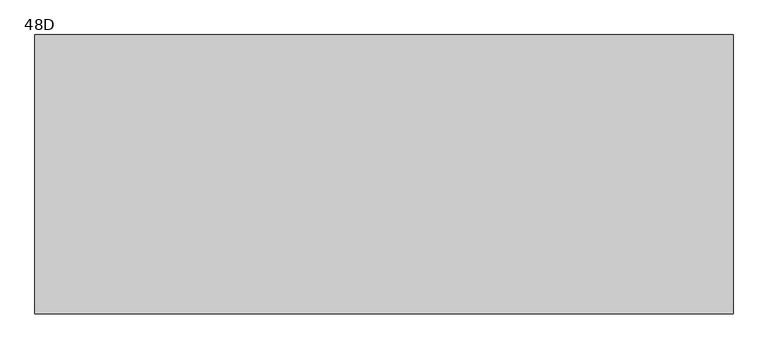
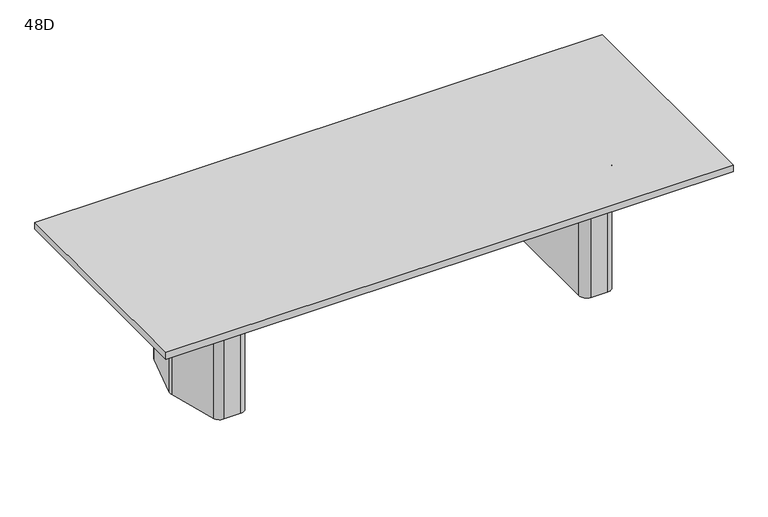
"""IFC4 building model written with IfcOpenShell, lengths in millimetres: furniture geometry, Coalesse_AM_Table_Conference_ETable2_Rectangular_10ft_TwoBase : 48D."""

import ifcopenshell
import ifcopenshell.guid

model = None  # the IFC model being written
_history = None  # IfcOwnerHistory: only IFC2X3 demands one
_inside = {}  # id of a spatial element -> (the spatial element, [elements in it])
_under = {}  # id of a project, library or spatial element -> (it, [spatial elements below it])
_declared = {}  # id of a project -> (the project, [libraries it declares])
_typed = {}  # id of a type object -> (the type object, [elements of that type])
_made_of = {}  # id of a material, layer set ... -> (it, [elements and type objects made of it])


def new_model(schema):
    """Start an empty IFC model of exactly this schema.

    Asked for "IFC4X3", IfcOpenShell would pick the latest addendum, in which some entities
    have other attributes; the version numbers below select the first issue.
    IFC2X3 requires an IfcOwnerHistory on every rooted entity: one is made here for all.
    """
    global model, _history
    if schema == "IFC4X3":
        model = ifcopenshell.file(schema_version=(4, 3, 0, 0))
    else:
        model = ifcopenshell.file(schema=schema)
    _inside.clear()
    _under.clear()
    _declared.clear()
    _typed.clear()
    _made_of.clear()
    _history = None
    if model.schema == "IFC2X3":
        org = make("IfcOrganization", Name="unknown")
        user = make(
            "IfcPersonAndOrganization",
            ThePerson=make("IfcPerson", FamilyName="unknown"),
            TheOrganization=org,
        )
        app = make(
            "IfcApplication",
            ApplicationDeveloper=org,
            Version="unknown",
            ApplicationFullName="unknown",
            ApplicationIdentifier="unknown",
        )
        _history = make(
            "IfcOwnerHistory",
            OwningUser=user,
            OwningApplication=app,
            ChangeAction="ADDED",
            CreationDate=0,
        )
    return model


def make(cls, **values):
    """One entity of the class cls with the attributes given. An attribute that is None is left unset."""
    return model.create_entity(
        cls, **{name: value for name, value in values.items() if value is not None}
    )


def rooted(cls, **values):
    """An entity with a GlobalId (a new one), such as an element, a storey or a relation."""
    return make(cls, GlobalId=ifcopenshell.guid.new(), OwnerHistory=_history, **values)


def si_unit(unit_type, name, prefix=None):
    """IfcSIUnit, for example si_unit("LENGTHUNIT", "METRE", prefix="MILLI")."""
    return make("IfcSIUnit", UnitType=unit_type, Prefix=prefix, Name=name)


def assignment(units):
    """IfcUnitAssignment: the units of a project."""
    return None if units is None else make("IfcUnitAssignment", Units=units)


def point(xyz):
    """IfcCartesianPoint."""
    return None if xyz is None else make("IfcCartesianPoint", Coordinates=xyz)


def direction(xyz):
    """IfcDirection."""
    return None if xyz is None else make("IfcDirection", DirectionRatios=xyz)


def frame(location, z_axis=None, x_axis=None):
    """IfcAxis2Placement3D, a coordinate frame: its origin and axes. An axis left out is left unset."""
    return make(
        "IfcAxis2Placement3D",
        Location=point(location),
        Axis=direction(z_axis),
        RefDirection=direction(x_axis),
    )


def origin():
    """The frame at (0, 0, 0) with its axes left unset."""
    return frame((0.0, 0.0, 0.0))


def place(relative_to, where):
    """IfcLocalPlacement: puts the frame where relative to a parent placement (None: the world)."""
    return make(
        "IfcLocalPlacement", PlacementRelTo=relative_to, RelativePlacement=where
    )


def context(
    kind, dimensions, precision=None, world=None, true_north=None, identifier=None
):
    """IfcGeometricRepresentationContext, for example the 3D "Model" context."""
    return make(
        "IfcGeometricRepresentationContext",
        ContextIdentifier=identifier,
        ContextType=kind,
        CoordinateSpaceDimension=dimensions,
        Precision=precision,
        WorldCoordinateSystem=world,
        TrueNorth=true_north,
    )


def project(units=None, contexts=None):
    """IfcProject with its units and contexts."""
    return rooted(
        "IfcProject",
        Name="project",
        RepresentationContexts=contexts,
        UnitsInContext=assignment(units),
    )


def spatial(cls, under=None, at=None, **own):
    """A site, building, storey or space (cls), placed at a placement, below another one or the project."""
    s = rooted(cls, ObjectPlacement=at, **own)
    if under is not None:
        _under.setdefault(under.id(), (under, []))[1].append(s)
    return s


def polyline(points):
    """IfcPolyline through the points."""
    return make("IfcPolyline", Points=[point(p) for p in points])


def circle_curve(where, radius):
    """IfcCircle in the frame where."""
    return make("IfcCircle", Position=where, Radius=radius)


def outline(outer, holes=None, kind="AREA"):
    """IfcArbitraryClosedProfileDef: a profile drawn as a closed curve; with holes, ...WithVoids."""
    if holes is None:
        return make("IfcArbitraryClosedProfileDef", ProfileType=kind, OuterCurve=outer)
    return make(
        "IfcArbitraryProfileDefWithVoids",
        ProfileType=kind,
        OuterCurve=outer,
        InnerCurves=holes,
    )


def extrude(swept, where, along, depth):
    """IfcExtrudedAreaSolid: the profile swept, set in the frame where, extruded along a direction by depth."""
    return make(
        "IfcExtrudedAreaSolid",
        SweptArea=swept,
        Position=where,
        ExtrudedDirection=direction(along),
        Depth=depth,
    )


def shape(context_of_items, identifier, shape_type, items):
    """IfcShapeRepresentation: the items that make up one representation, for example the "Body"."""
    return make(
        "IfcShapeRepresentation",
        ContextOfItems=context_of_items,
        RepresentationIdentifier=identifier,
        RepresentationType=shape_type,
        Items=items,
    )


def source(mapping_origin, context_of_items, identifier, shape_type, items):
    """IfcRepresentationMap: a shape defined once, which mapped items show again and again."""
    return make(
        "IfcRepresentationMap",
        MappingOrigin=mapping_origin,
        MappedRepresentation=shape(context_of_items, identifier, shape_type, items),
    )


def transform(
    local_origin,
    x_axis=None,
    y_axis=None,
    z_axis=None,
    scale=None,
    scale2=None,
    scale3=None,
    uniform=True,
):
    """IfcCartesianTransformationOperator3D, or its non-uniform kind. x_axis, y_axis, z_axis: its Axis1, 2, 3."""
    if uniform:
        return make(
            "IfcCartesianTransformationOperator3D",
            Axis1=direction(x_axis),
            Axis2=direction(y_axis),
            LocalOrigin=point(local_origin),
            Scale=scale,
            Axis3=direction(z_axis),
        )
    return make(
        "IfcCartesianTransformationOperator3DnonUniform",
        Axis1=direction(x_axis),
        Axis2=direction(y_axis),
        LocalOrigin=point(local_origin),
        Scale=scale,
        Axis3=direction(z_axis),
        Scale2=scale2,
        Scale3=scale3,
    )


def mapped(mapping_source, mapping_target):
    """IfcMappedItem: shows the shape of a source again, moved by a transform."""
    return make(
        "IfcMappedItem", MappingSource=mapping_source, MappingTarget=mapping_target
    )


def made_of(thing, what):
    """Note that an element or type object is made of a material, layer set ...; save() writes the relation."""
    if what is not None:
        _made_of.setdefault(what.id(), (what, []))[1].append(thing)
    return thing


def element(
    cls,
    number,
    at=None,
    inside=None,
    cuts=None,
    type_object=None,
    material=None,
    context=None,
    identifier="Body",
    shape_type=None,
    held_by="IfcProductDefinitionShape",
    body=None,
    shapes=None,
    **own,
):
    """One element of the class cls, such as IfcWall. Its Tag is "e" and its number.

    at: its placement. inside: the storey or other place that contains it. cuts: it is an
    opening in that element (IfcRelVoidsElement). A single representation is given by context,
    identifier, shape_type and body (its items); several are given by shapes. held_by: the class
    of the entity that holds the representations. save() writes the other relations.
    """
    e = rooted(cls, Tag="e%d" % number, ObjectPlacement=at, **own)
    if body is not None:
        shapes = [shape(context, identifier, shape_type, body)]
    if shapes is not None:
        e.Representation = make(held_by, Representations=shapes)
    if inside is not None:
        _inside.setdefault(inside.id(), (inside, []))[1].append(e)
    if cuts is not None:
        rooted(
            "IfcRelVoidsElement", RelatingBuildingElement=cuts, RelatedOpeningElement=e
        )
    if type_object is not None:
        _typed.setdefault(type_object.id(), (type_object, []))[1].append(e)
    return made_of(e, material)


def aggregate(whole, parts):
    """IfcRelAggregates: a whole, such as a stair, and the parts it consists of."""
    return rooted("IfcRelAggregates", RelatingObject=whole, RelatedObjects=parts)


def save(model, path):
    """Write the relations noted so far, then the file.

    IfcRelAggregates (storeys below a building ...), IfcRelContainedInSpatialStructure (elements
    in a storey), IfcRelDefinesByType, IfcRelAssociatesMaterial and IfcRelDeclares: one each for
    every whole, place, type object, material and project.
    """
    for whole, parts in _under.values():
        aggregate(whole, parts)
    for where, things in _inside.values():
        rooted(
            "IfcRelContainedInSpatialStructure",
            RelatedElements=things,
            RelatingStructure=where,
        )
    for kind, things in _typed.values():
        rooted("IfcRelDefinesByType", RelatedObjects=things, RelatingType=kind)
    for what, things in _made_of.values():
        rooted("IfcRelAssociatesMaterial", RelatedObjects=things, RelatingMaterial=what)
    for by, libraries in _declared.values():
        rooted("IfcRelDeclares", RelatingContext=by, RelatedDefinitions=libraries)
    model.write(path)


def plane_surface(at):
    """IfcPlane: the flat surface through the origin of the frame at, square to its z axis."""
    return make("IfcPlane", Position=at)


def cylinder_surface(at, radius):
    """IfcCylindricalSurface: all points at the distance radius from the z axis of the frame at."""
    return make("IfcCylindricalSurface", Position=at, Radius=radius)


def revolved_surface(curve, axis_point, axis_direction):
    """IfcSurfaceOfRevolution: the curve turned about the line through axis_point along axis_direction."""
    return make(
        "IfcSurfaceOfRevolution",
        SweptCurve=make("IfcArbitraryOpenProfileDef", ProfileType="CURVE", Curve=curve),
        AxisPosition=make("IfcAxis1Placement", Location=point(axis_point), Axis=direction(axis_direction)),
    )


def advanced_brep(points, edges, surfaces, faces):
    """IfcAdvancedBrep: a solid bounded by faces that lie on surfaces and meet in shared edges.

    An edge is (start, end): straight between two places in points (the first is 0);
    or (start, end, curve); or (start, end, curve, False) where it runs against its curve.
    A face is (place in surfaces, loops), or (place, loops, False) where it looks against
    its surface's normal. A loop lists edges by number (the first is 1), with a minus sign
    where the edge is run from its end to its start. The first loop is the outer one.
    """
    corners = [point(p) for p in points]
    vertices = [make("IfcVertexPoint", VertexGeometry=c) for c in corners]
    made = []
    for start, end, *more in edges:
        made.append(
            make(
                "IfcEdgeCurve",
                EdgeStart=vertices[start],
                EdgeEnd=vertices[end],
                EdgeGeometry=more[0] if more else make("IfcPolyline", Points=[corners[start], corners[end]]),
                SameSense=more[1] if len(more) > 1 else True,
            )
        )
    hull = []
    for where, loops, *sense in faces:
        bounds = []
        for j, loop in enumerate(loops):
            ring = [make("IfcOrientedEdge", EdgeElement=made[abs(k) - 1], Orientation=k > 0) for k in loop]
            bounds.append(
                make(
                    "IfcFaceOuterBound" if j == 0 else "IfcFaceBound",
                    Bound=make("IfcEdgeLoop", EdgeList=ring),
                    Orientation=True,
                )
            )
        hull.append(make("IfcAdvancedFace", Bounds=bounds, FaceSurface=surfaces[where], SameSense=sense[0] if sense else True))
    return make("IfcAdvancedBrep", Outer=make("IfcClosedShell", CfsFaces=hull))


def furniture_48d_0ca156d2(model_context):
    return source(origin(), model_context, "Body", "SolidModel", [
        advanced_brep(
        [(1065.424548, 274.2093613, 698.5), (1025.5579246, 304.8, 698.5), (936.625, 304.8, 698.5), (895.35, 263.525, 698.5), (895.35, -263.525, 698.5), (936.625, -304.8, 698.5), (1025.5579246, -304.8, 698.5), (1065.424548, -274.2093613, 698.5), (1136.0503901, -10.6333708, 698.5), (1136.0503901, 10.6333708, 698.5), (933.45, -206.375, 698.5), (933.45, 206.375, 698.5), (958.85, 231.775, 698.5), (1017.8608422, 231.775, 698.5), (1042.395338, 212.9490792, 698.5), (1081.0875, 68.54974, 698.5), (1081.0875, -68.54974, 698.5), (1042.395338, -212.9490792, 698.5), (1017.8608422, -231.775, 698.5), (958.85, -231.775, 698.5), (1065.424548, 274.2093613, 3.175), (1136.0503901, 10.6333708, 3.175), (1136.0503901, -10.6333708, 3.175), (1065.424548, -274.2093613, 3.175), (1025.5579246, -304.8, 3.175), (936.625, -304.8, 3.175), (895.35, -263.525, 3.175), (895.35, 263.525, 3.175), (936.625, 304.8, 3.175), (1025.5579246, 304.8, 3.175), (1054.6625859, 216.2361187, 3.175), (1017.8608422, 244.475, 3.175), (958.85, 244.475, 3.175), (920.75, 206.375, 3.175), (920.75, -206.375, 3.175), (958.85, -244.475, 3.175), (1017.8608422, -244.475, 3.175), (1054.6625859, -216.2361187, 3.175), (1093.7875, -70.2217466, 3.175), (1093.7875, 70.2217466, 3.175), (958.85, -231.775, 3.175), (933.45, -206.375, 3.175), (1017.8608422, -231.775, 3.175), (1042.395338, -212.9490792, 3.175), (1081.0875, -68.54974, 3.175), (1081.0875, 68.54974, 3.175), (1042.395338, 212.9490792, 3.175), (1017.8608422, 231.775, 3.175), (958.85, 231.775, 3.175), (933.45, 206.375, 3.175), (1054.6625859, 216.2361187, 0.0), (1093.7875, 70.2217466, 0.0), (1093.7875, -70.2217466, 0.0), (1054.6625859, -216.2361187, 0.0), (1017.8608422, -244.475, 0.0), (958.85, -244.475, 0.0), (920.75, -206.375, 0.0), (920.75, 206.375, 0.0), (958.85, 244.475, 0.0), (1017.8608422, 244.475, 0.0)],
        [
            (0, 1, circle_curve(frame((1025.5579246, 263.5270004, 698.5), z_axis=(0.0, 0.0, 1.0), x_axis=(-1.0, 0.0, 0.0)), 41.2729996)),
            (1, 2),
            (2, 3, circle_curve(frame((936.625, 263.525, 698.5), z_axis=(0.0, 0.0, 1.0), x_axis=(-1.0, 0.0, 0.0)), 41.275)),
            (3, 4),
            (4, 5, circle_curve(frame((936.625, -263.525, 698.5), z_axis=(0.0, 0.0, 1.0), x_axis=(-1.0, 0.0, 0.0)), 41.275)),
            (5, 6),
            (6, 7, circle_curve(frame((1025.5579246, -263.5270004, 698.5), z_axis=(0.0, 0.0, 1.0), x_axis=(-1.0, 0.0, 0.0)), 41.2729996)),
            (7, 8),
            (8, 9, circle_curve(frame((1096.3665979, 0.0, 698.5), z_axis=(0.0, 0.0, 1.0), x_axis=(-1.0, 0.0, 0.0)), 41.0837187)),
            (9, 0),
            (10, 11),
            (11, 12, circle_curve(frame((958.85, 206.375, 698.5), z_axis=(0.0, 0.0, -1.0), x_axis=(-1.0, 0.0, 0.0)), 25.4)),
            (12, 13),
            (13, 14, circle_curve(frame((1017.8608422, 206.375, 698.5), z_axis=(0.0, 0.0, -1.0), x_axis=(-1.0, 0.0, 0.0)), 25.4)),
            (14, 15),
            (15, 16),
            (16, 17),
            (17, 18, circle_curve(frame((1017.8608422, -206.375, 698.5), z_axis=(0.0, 0.0, -1.0), x_axis=(-1.0, 0.0, 0.0)), 25.4)),
            (18, 19),
            (19, 10, circle_curve(frame((958.85, -206.375, 698.5), z_axis=(0.0, 0.0, -1.0), x_axis=(-1.0, 0.0, 0.0)), 25.4)),
            (20, 21),
            (21, 22, circle_curve(frame((1096.3665979, 0.0, 3.175), z_axis=(0.0, 0.0, -1.0), x_axis=(-1.0, 0.0, 0.0)), 41.0837187)),
            (22, 23),
            (23, 24, circle_curve(frame((1025.5579246, -263.5270004, 3.175), z_axis=(0.0, 0.0, -1.0), x_axis=(-1.0, 0.0, 0.0)), 41.2729996)),
            (24, 25),
            (25, 26, circle_curve(frame((936.625, -263.525, 3.175), z_axis=(0.0, 0.0, -1.0), x_axis=(-1.0, 0.0, 0.0)), 41.275)),
            (26, 27),
            (27, 28, circle_curve(frame((936.625, 263.525, 3.175), z_axis=(0.0, 0.0, -1.0), x_axis=(-1.0, 0.0, 0.0)), 41.275)),
            (28, 29),
            (29, 20, circle_curve(frame((1025.5579246, 263.5270004, 3.175), z_axis=(0.0, 0.0, -1.0), x_axis=(-1.0, 0.0, 0.0)), 41.2729996)),
            (30, 31, circle_curve(frame((1017.8608422, 206.375, 3.175), z_axis=(0.0, 0.0, 1.0), x_axis=(-1.0, 0.0, 0.0)), 38.1)),
            (31, 32),
            (32, 33, circle_curve(frame((958.85, 206.375, 3.175), z_axis=(0.0, 0.0, 1.0), x_axis=(-1.0, 0.0, 0.0)), 38.1)),
            (33, 34),
            (34, 35, circle_curve(frame((958.85, -206.375, 3.175), z_axis=(0.0, 0.0, 1.0), x_axis=(-1.0, 0.0, 0.0)), 38.1)),
            (35, 36),
            (36, 37, circle_curve(frame((1017.8608422, -206.375, 3.175), z_axis=(0.0, 0.0, 1.0), x_axis=(-1.0, 0.0, 0.0)), 38.1)),
            (37, 38),
            (38, 39),
            (39, 30),
            (9, 21),
            (20, 0),
            (8, 22),
            (7, 23),
            (6, 24),
            (5, 25),
            (4, 26),
            (3, 27),
            (2, 28),
            (1, 29),
            (19, 40),
            (40, 41, circle_curve(frame((958.85, -206.375, 3.175), z_axis=(0.0, 0.0, -1.0), x_axis=(-1.0, 0.0, 0.0)), 25.4)),
            (41, 10),
            (18, 42),
            (42, 40),
            (17, 43),
            (43, 42, circle_curve(frame((1017.8608422, -206.375, 3.175), z_axis=(0.0, 0.0, -1.0), x_axis=(-1.0, 0.0, 0.0)), 25.4)),
            (16, 44),
            (44, 43),
            (15, 45),
            (45, 44),
            (14, 46),
            (46, 45),
            (13, 47),
            (47, 46, circle_curve(frame((1017.8608422, 206.375, 3.175), z_axis=(0.0, 0.0, -1.0), x_axis=(-1.0, 0.0, 0.0)), 25.4)),
            (12, 48),
            (48, 47),
            (11, 49),
            (49, 48, circle_curve(frame((958.85, 206.375, 3.175), z_axis=(0.0, 0.0, -1.0), x_axis=(-1.0, 0.0, 0.0)), 25.4)),
            (41, 49),
            (50, 51),
            (51, 52),
            (52, 53),
            (53, 54, circle_curve(frame((1017.8608422, -206.375, 0.0), z_axis=(0.0, 0.0, -1.0), x_axis=(-1.0, 0.0, 0.0)), 38.1)),
            (54, 55),
            (55, 56, circle_curve(frame((958.85, -206.375, 0.0), z_axis=(0.0, 0.0, -1.0), x_axis=(-1.0, 0.0, 0.0)), 38.1)),
            (56, 57),
            (57, 58, circle_curve(frame((958.85, 206.375, 0.0), z_axis=(0.0, 0.0, -1.0), x_axis=(-1.0, 0.0, 0.0)), 38.1)),
            (58, 59),
            (59, 50, circle_curve(frame((1017.8608422, 206.375, 0.0), z_axis=(0.0, 0.0, -1.0), x_axis=(-1.0, 0.0, 0.0)), 38.1)),
            (50, 30),
            (39, 51),
            (38, 52),
            (37, 53),
            (36, 54),
            (35, 55),
            (34, 56),
            (33, 57),
            (32, 58),
            (31, 59),
        ],
        [
            plane_surface(frame((1136.0374275, 10.6817473, 698.5), z_axis=(0.0, 0.0, 1.0000000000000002), x_axis=(0.25882201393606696, -0.9659250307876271, 0.0))),
            plane_surface(frame((1136.0374275, 10.6817473, 3.175), z_axis=(0.0, 0.0, -1.0000000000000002), x_axis=(-0.25882201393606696, 0.9659250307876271, 0.0))),
            plane_surface(frame((1065.424548, 274.2093613, 698.5), z_axis=(0.9659250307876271, 0.25882201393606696, 0.0), x_axis=(0.0, 0.0, -1.0))),
            cylinder_surface(frame((1096.3665979, 0.0, 3.175), z_axis=(0.0, 0.0, 1.0), x_axis=(-1.0, 0.0, 0.0)), 41.0837187),
            plane_surface(frame((1136.0503901, -10.6333708, 698.5), z_axis=(0.9659250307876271, -0.2588220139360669, 0.0), x_axis=(0.0, 0.0, -1.0))),
            cylinder_surface(frame((1025.5579246, -263.5270004, 3.175), z_axis=(0.0, 0.0, 1.0), x_axis=(-1.0, 0.0, 0.0)), 41.2729996),
            plane_surface(frame((1025.5579246, -304.8, 698.5), z_axis=(0.0, -1.0, 0.0), x_axis=(0.0, 0.0, -1.0))),
            cylinder_surface(frame((936.625, -263.525, 3.175), z_axis=(0.0, 0.0, 1.0), x_axis=(-1.0, 0.0, 0.0)), 41.275),
            plane_surface(frame((895.35, -263.525, 698.5), z_axis=(-1.0, 0.0, 0.0), x_axis=(0.0, 0.0, -1.0))),
            cylinder_surface(frame((936.625, 263.525, 3.175), z_axis=(0.0, 0.0, 1.0), x_axis=(-1.0, 0.0, 0.0)), 41.275),
            plane_surface(frame((936.625, 304.8, 698.5), z_axis=(0.0, 1.0, 0.0), x_axis=(0.0, 0.0, -1.0))),
            cylinder_surface(frame((1025.5579246, 263.5270004, 3.175), z_axis=(0.0, 0.0, 1.0), x_axis=(-1.0, 0.0, 0.0)), 41.2729996),
            revolved_surface(polyline([(933.45, -206.375, 3.175), (933.45, -206.375, 698.5)]), (958.85, -206.375, 0.0), (0.0, 0.0, -1.0)),
            plane_surface(frame((958.85, -231.775, 698.5), z_axis=(0.0, 1.0, 0.0), x_axis=(0.0, 0.0, -1.0))),
            revolved_surface(polyline([(992.4608422, -206.375, 3.175), (992.4608422, -206.375, 698.5)]), (1017.8608422, -206.375, 0.0), (0.0, 0.0, -1.0)),
            plane_surface(frame((1042.395338, -212.9490792, 698.5), z_axis=(-0.9659250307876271, 0.2588220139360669, 0.0), x_axis=(0.0, 0.0, -1.0))),
            plane_surface(frame((1081.0875, -68.54974, 698.5), z_axis=(-1.0, 0.0, 0.0), x_axis=(0.0, 0.0, -1.0))),
            plane_surface(frame((1081.0875, 68.54974, 698.5), z_axis=(-0.9659250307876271, -0.25882201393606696, 0.0), x_axis=(0.0, 0.0, -1.0))),
            revolved_surface(polyline([(992.4608422, 206.375, 3.175), (992.4608422, 206.375, 698.5)]), (1017.8608422, 206.375, 0.0), (0.0, 0.0, -1.0)),
            plane_surface(frame((1017.8608422, 231.775, 698.5), z_axis=(0.0, -1.0, 0.0), x_axis=(0.0, 0.0, -1.0))),
            revolved_surface(polyline([(933.45, 206.375, 3.175), (933.45, 206.375, 698.5)]), (958.85, 206.375, 0.0), (0.0, 0.0, -1.0)),
            plane_surface(frame((933.45, 206.375, 698.5), z_axis=(1.0, 0.0, 0.0), x_axis=(0.0, 0.0, -1.0))),
            plane_surface(frame((1093.3547479, 71.8367796, 3.175), z_axis=(0.0, 0.0, 1.0), x_axis=(0.25882201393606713, -0.965925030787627, 0.0))),
            plane_surface(frame((1093.3547479, 71.8367796, 0.0), z_axis=(0.0, 0.0, -1.0), x_axis=(-0.25882201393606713, 0.965925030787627, 0.0))),
            plane_surface(frame((1054.6625859, 216.2361187, 3.175), z_axis=(0.965925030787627, 0.25882201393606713, 0.0), x_axis=(0.0, 0.0, -1.0))),
            plane_surface(frame((1093.7875, 70.2217466, 3.175), z_axis=(1.0, 0.0, 0.0), x_axis=(0.0, 0.0, -1.0))),
            plane_surface(frame((1093.7875, -70.2217466, 3.175), z_axis=(0.9659250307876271, -0.2588220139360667, 0.0), x_axis=(0.0, 0.0, -1.0))),
            cylinder_surface(frame((1017.8608422, -206.375, 0.0), z_axis=(0.0, 0.0, 1.0), x_axis=(-1.0, 0.0, 0.0)), 38.1),
            plane_surface(frame((1017.8608422, -244.475, 3.175), z_axis=(0.0, -1.0, 0.0), x_axis=(0.0, 0.0, -1.0))),
            cylinder_surface(frame((958.85, -206.375, 0.0), z_axis=(0.0, 0.0, 1.0), x_axis=(-1.0, 0.0, 0.0)), 38.1),
            plane_surface(frame((920.75, -206.375, 3.175), z_axis=(-1.0, 0.0, 0.0), x_axis=(0.0, 0.0, -1.0))),
            cylinder_surface(frame((958.85, 206.375, 0.0), z_axis=(0.0, 0.0, 1.0), x_axis=(-1.0, 0.0, 0.0)), 38.1),
            plane_surface(frame((958.85, 244.475, 3.175), z_axis=(0.0, 1.0, 0.0), x_axis=(0.0, 0.0, -1.0))),
            cylinder_surface(frame((1017.8608422, 206.375, 0.0), z_axis=(0.0, 0.0, 1.0), x_axis=(-1.0, 0.0, 0.0)), 38.1),
        ],
        [
            (0, [[1, 2, 3, 4, 5, 6, 7, 8, 9, 10], [11, 12, 13, 14, 15, 16, 17, 18, 19, 20]]),
            (1, [[21, 22, 23, 24, 25, 26, 27, 28, 29, 30], [31, 32, 33, 34, 35, 36, 37, 38, 39, 40]]),
            (2, [[41, -21, 42, -10]]),
            (3, [[43, -22, -41, -9]]),
            (4, [[44, -23, -43, -8]]),
            (5, [[45, -24, -44, -7]]),
            (6, [[46, -25, -45, -6]]),
            (7, [[47, -26, -46, -5]]),
            (8, [[48, -27, -47, -4]]),
            (9, [[49, -28, -48, -3]]),
            (10, [[50, -29, -49, -2]]),
            (11, [[-42, -30, -50, -1]]),
            (12, [[51, 52, 53, -20]]),
            (13, [[54, 55, -51, -19]]),
            (14, [[56, 57, -54, -18]]),
            (15, [[58, 59, -56, -17]]),
            (16, [[60, 61, -58, -16]]),
            (17, [[62, 63, -60, -15]]),
            (18, [[64, 65, -62, -14]]),
            (19, [[66, 67, -64, -13]]),
            (20, [[68, 69, -66, -12]]),
            (21, [[-53, 70, -68, -11]]),
            (22, [[-55, -57, -59, -61, -63, -65, -67, -69, -70, -52]]),
            (23, [[71, 72, 73, 74, 75, 76, 77, 78, 79, 80]]),
            (24, [[81, -40, 82, -71]]),
            (25, [[-82, -39, 83, -72]]),
            (26, [[-83, -38, 84, -73]]),
            (27, [[-84, -37, 85, -74]]),
            (28, [[-85, -36, 86, -75]]),
            (29, [[-86, -35, 87, -76]]),
            (30, [[-87, -34, 88, -77]]),
            (31, [[-88, -33, 89, -78]]),
            (32, [[-89, -32, 90, -79]]),
            (33, [[-90, -31, -81, -80]]),
        ],
    ),
        advanced_brep(
        [(-1076.537048, 274.2093613, 698.5), (-1147.1628901, 10.6333708, 698.5), (-1147.1628901, -10.6333708, 698.5), (-1076.537048, -274.2093613, 698.5), (-1036.6704246, -304.8, 698.5), (-947.7375, -304.8, 698.5), (-906.4625, -263.525, 698.5), (-906.4625, 263.525, 698.5), (-947.7375, 304.8, 698.5), (-1036.6704246, 304.8, 698.5), (-944.5625, -206.375, 698.5), (-969.9625, -231.775, 698.5), (-1028.9733422, -231.775, 698.5), (-1053.507838, -212.9490792, 698.5), (-1092.2, -68.54974, 698.5), (-1092.2, 68.54974, 698.5), (-1053.507838, 212.9490792, 698.5), (-1028.9733422, 231.775, 698.5), (-969.9625, 231.775, 698.5), (-944.5625, 206.375, 698.5), (-1076.537048, 274.2093613, 3.175), (-1036.6704246, 304.8, 3.175), (-947.7375, 304.8, 3.175), (-906.4625, 263.525, 3.175), (-906.4625, -263.525, 3.175), (-947.7375, -304.8, 3.175), (-1036.6704246, -304.8, 3.175), (-1076.537048, -274.2093613, 3.175), (-1147.1628901, -10.6333708, 3.175), (-1147.1628901, 10.6333708, 3.175), (-1065.7750859, 216.2361187, 3.175), (-1104.9, 70.2217466, 3.175), (-1104.9, -70.2217466, 3.175), (-1065.7750859, -216.2361187, 3.175), (-1028.9733422, -244.475, 3.175), (-969.9625, -244.475, 3.175), (-931.8625, -206.375, 3.175), (-931.8625, 206.375, 3.175), (-969.9625, 244.475, 3.175), (-1028.9733422, 244.475, 3.175), (-944.5625, -206.375, 3.175), (-969.9625, -231.775, 3.175), (-1028.9733422, -231.775, 3.175), (-1053.507838, -212.9490792, 3.175), (-1092.2, -68.54974, 3.175), (-1092.2, 68.54974, 3.175), (-1053.507838, 212.9490792, 3.175), (-1028.9733422, 231.775, 3.175), (-969.9625, 231.775, 3.175), (-944.5625, 206.375, 3.175), (-1065.7750859, 216.2361187, 0.0), (-1028.9733422, 244.475, 0.0), (-969.9625, 244.475, 0.0), (-931.8625, 206.375, 0.0), (-931.8625, -206.375, 0.0), (-969.9625, -244.475, 0.0), (-1028.9733422, -244.475, 0.0), (-1065.7750859, -216.2361187, 0.0), (-1104.9, -70.2217466, 0.0), (-1104.9, 70.2217466, 0.0)],
        [
            (0, 1),
            (1, 2, circle_curve(frame((-1107.4790979, 0.0, 698.5), z_axis=(0.0, 0.0, 1.0), x_axis=(1.0, 0.0, 0.0)), 41.0837187)),
            (2, 3),
            (3, 4, circle_curve(frame((-1036.6704246, -263.5270004, 698.5), z_axis=(0.0, 0.0, 1.0), x_axis=(1.0, 0.0, 0.0)), 41.2729996)),
            (4, 5),
            (5, 6, circle_curve(frame((-947.7375, -263.525, 698.5), z_axis=(0.0, 0.0, 1.0), x_axis=(1.0, 0.0, 0.0)), 41.275)),
            (6, 7),
            (7, 8, circle_curve(frame((-947.7375, 263.525, 698.5), z_axis=(0.0, 0.0, 1.0), x_axis=(1.0, 0.0, 0.0)), 41.275)),
            (8, 9),
            (9, 0, circle_curve(frame((-1036.6704246, 263.5270004, 698.5), z_axis=(0.0, 0.0, 1.0), x_axis=(1.0, 0.0, 0.0)), 41.2729996)),
            (10, 11, circle_curve(frame((-969.9625, -206.375, 698.5), z_axis=(0.0, 0.0, -1.0), x_axis=(1.0, 0.0, 0.0)), 25.4)),
            (11, 12),
            (12, 13, circle_curve(frame((-1028.9733422, -206.375, 698.5), z_axis=(0.0, 0.0, -1.0), x_axis=(1.0, 0.0, 0.0)), 25.4)),
            (13, 14),
            (14, 15),
            (15, 16),
            (16, 17, circle_curve(frame((-1028.9733422, 206.375, 698.5), z_axis=(0.0, 0.0, -1.0), x_axis=(1.0, 0.0, 0.0)), 25.4)),
            (17, 18),
            (18, 19, circle_curve(frame((-969.9625, 206.375, 698.5), z_axis=(0.0, 0.0, -1.0), x_axis=(1.0, 0.0, 0.0)), 25.4)),
            (19, 10),
            (20, 21, circle_curve(frame((-1036.6704246, 263.5270004, 3.175), z_axis=(0.0, 0.0, -1.0), x_axis=(1.0, 0.0, 0.0)), 41.2729996)),
            (21, 22),
            (22, 23, circle_curve(frame((-947.7375, 263.525, 3.175), z_axis=(0.0, 0.0, -1.0), x_axis=(1.0, 0.0, 0.0)), 41.275)),
            (23, 24),
            (24, 25, circle_curve(frame((-947.7375, -263.525, 3.175), z_axis=(0.0, 0.0, -1.0), x_axis=(1.0, 0.0, 0.0)), 41.275)),
            (25, 26),
            (26, 27, circle_curve(frame((-1036.6704246, -263.5270004, 3.175), z_axis=(0.0, 0.0, -1.0), x_axis=(1.0, 0.0, 0.0)), 41.2729996)),
            (27, 28),
            (28, 29, circle_curve(frame((-1107.4790979, 0.0, 3.175), z_axis=(0.0, 0.0, -1.0), x_axis=(1.0, 0.0, 0.0)), 41.0837187)),
            (29, 20),
            (30, 31),
            (31, 32),
            (32, 33),
            (33, 34, circle_curve(frame((-1028.9733422, -206.375, 3.175), z_axis=(0.0, 0.0, 1.0), x_axis=(1.0, 0.0, 0.0)), 38.1)),
            (34, 35),
            (35, 36, circle_curve(frame((-969.9625, -206.375, 3.175), z_axis=(0.0, 0.0, 1.0), x_axis=(1.0, 0.0, 0.0)), 38.1)),
            (36, 37),
            (37, 38, circle_curve(frame((-969.9625, 206.375, 3.175), z_axis=(0.0, 0.0, 1.0), x_axis=(1.0, 0.0, 0.0)), 38.1)),
            (38, 39),
            (39, 30, circle_curve(frame((-1028.9733422, 206.375, 3.175), z_axis=(0.0, 0.0, 1.0), x_axis=(1.0, 0.0, 0.0)), 38.1)),
            (0, 20),
            (29, 1),
            (28, 2),
            (27, 3),
            (26, 4),
            (25, 5),
            (24, 6),
            (23, 7),
            (22, 8),
            (21, 9),
            (10, 40),
            (40, 41, circle_curve(frame((-969.9625, -206.375, 3.175), z_axis=(0.0, 0.0, -1.0), x_axis=(1.0, 0.0, 0.0)), 25.4)),
            (41, 11),
            (41, 42),
            (42, 12),
            (42, 43, circle_curve(frame((-1028.9733422, -206.375, 3.175), z_axis=(0.0, 0.0, -1.0), x_axis=(1.0, 0.0, 0.0)), 25.4)),
            (43, 13),
            (43, 44),
            (44, 14),
            (44, 45),
            (45, 15),
            (45, 46),
            (46, 16),
            (46, 47, circle_curve(frame((-1028.9733422, 206.375, 3.175), z_axis=(0.0, 0.0, -1.0), x_axis=(1.0, 0.0, 0.0)), 25.4)),
            (47, 17),
            (47, 48),
            (48, 18),
            (48, 49, circle_curve(frame((-969.9625, 206.375, 3.175), z_axis=(0.0, 0.0, -1.0), x_axis=(1.0, 0.0, 0.0)), 25.4)),
            (49, 19),
            (49, 40),
            (50, 51, circle_curve(frame((-1028.9733422, 206.375, 0.0), z_axis=(0.0, 0.0, -1.0), x_axis=(1.0, 0.0, 0.0)), 38.1)),
            (51, 52),
            (52, 53, circle_curve(frame((-969.9625, 206.375, 0.0), z_axis=(0.0, 0.0, -1.0), x_axis=(1.0, 0.0, 0.0)), 38.1)),
            (53, 54),
            (54, 55, circle_curve(frame((-969.9625, -206.375, 0.0), z_axis=(0.0, 0.0, -1.0), x_axis=(1.0, 0.0, 0.0)), 38.1)),
            (55, 56),
            (56, 57, circle_curve(frame((-1028.9733422, -206.375, 0.0), z_axis=(0.0, 0.0, -1.0), x_axis=(1.0, 0.0, 0.0)), 38.1)),
            (57, 58),
            (58, 59),
            (59, 50),
            (59, 31),
            (30, 50),
            (58, 32),
            (57, 33),
            (56, 34),
            (55, 35),
            (54, 36),
            (53, 37),
            (52, 38),
            (51, 39),
        ],
        [
            plane_surface(frame((-1147.1499275, 10.6817473, 698.5), z_axis=(0.0, 0.0, 1.0000000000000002), x_axis=(-0.25882201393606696, -0.9659250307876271, 0.0))),
            plane_surface(frame((-1147.1499275, 10.6817473, 3.175), z_axis=(0.0, 0.0, -1.0000000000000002), x_axis=(0.25882201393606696, 0.9659250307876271, 0.0))),
            plane_surface(frame((-1076.537048, 274.2093613, 698.5), z_axis=(-0.9659250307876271, 0.25882201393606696, 0.0), x_axis=(0.0, 0.0, -1.0))),
            cylinder_surface(frame((-1107.4790979, 0.0, 3.175), z_axis=(0.0, 0.0, 1.0), x_axis=(1.0, 0.0, 0.0)), 41.0837187),
            plane_surface(frame((-1147.1628901, -10.6333708, 698.5), z_axis=(-0.9659250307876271, -0.2588220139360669, 0.0), x_axis=(0.0, 0.0, -1.0))),
            cylinder_surface(frame((-1036.6704246, -263.5270004, 3.175), z_axis=(0.0, 0.0, 1.0), x_axis=(1.0, 0.0, 0.0)), 41.2729996),
            plane_surface(frame((-1036.6704246, -304.8, 698.5), z_axis=(0.0, -1.0, 0.0), x_axis=(0.0, 0.0, -1.0))),
            cylinder_surface(frame((-947.7375, -263.525, 3.175), z_axis=(0.0, 0.0, 1.0), x_axis=(1.0, 0.0, 0.0)), 41.275),
            plane_surface(frame((-906.4625, -263.525, 698.5), z_axis=(1.0, 0.0, 0.0), x_axis=(0.0, 0.0, -1.0))),
            cylinder_surface(frame((-947.7375, 263.525, 3.175), z_axis=(0.0, 0.0, 1.0), x_axis=(1.0, 0.0, 0.0)), 41.275),
            plane_surface(frame((-947.7375, 304.8, 698.5), z_axis=(0.0, 1.0, 0.0), x_axis=(0.0, 0.0, -1.0))),
            cylinder_surface(frame((-1036.6704246, 263.5270004, 3.175), z_axis=(0.0, 0.0, 1.0), x_axis=(1.0, 0.0, 0.0)), 41.2729996),
            revolved_surface(polyline([(-944.5625, -206.375, 3.175), (-944.5625, -206.375, 698.5)]), (-969.9625, -206.375, 0.0), (0.0, 0.0, -1.0)),
            plane_surface(frame((-969.9625, -231.775, 698.5), z_axis=(0.0, 1.0, 0.0), x_axis=(0.0, 0.0, -1.0))),
            revolved_surface(polyline([(-1003.5733422, -206.375, 3.175), (-1003.5733422, -206.375, 698.5)]), (-1028.9733422, -206.375, 0.0), (0.0, 0.0, -1.0)),
            plane_surface(frame((-1053.507838, -212.9490792, 698.5), z_axis=(0.9659250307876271, 0.2588220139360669, 0.0), x_axis=(0.0, 0.0, -1.0))),
            plane_surface(frame((-1092.2, -68.54974, 698.5), z_axis=(1.0, 0.0, 0.0), x_axis=(0.0, 0.0, -1.0))),
            plane_surface(frame((-1092.2, 68.54974, 698.5), z_axis=(0.9659250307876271, -0.25882201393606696, 0.0), x_axis=(0.0, 0.0, -1.0))),
            revolved_surface(polyline([(-1003.5733422, 206.375, 3.175), (-1003.5733422, 206.375, 698.5)]), (-1028.9733422, 206.375, 0.0), (0.0, 0.0, -1.0)),
            plane_surface(frame((-1028.9733422, 231.775, 698.5), z_axis=(0.0, -1.0, 0.0), x_axis=(0.0, 0.0, -1.0))),
            revolved_surface(polyline([(-944.5625, 206.375, 3.175), (-944.5625, 206.375, 698.5)]), (-969.9625, 206.375, 0.0), (0.0, 0.0, -1.0)),
            plane_surface(frame((-944.5625, 206.375, 698.5), z_axis=(-1.0, 0.0, 0.0), x_axis=(0.0, 0.0, -1.0))),
            plane_surface(frame((-1104.4672479, 71.8367796, 3.175), z_axis=(0.0, 0.0, 1.0), x_axis=(-0.25882201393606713, -0.965925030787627, 0.0))),
            plane_surface(frame((-1104.4672479, 71.8367796, 0.0), z_axis=(0.0, 0.0, -1.0), x_axis=(0.25882201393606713, 0.965925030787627, 0.0))),
            plane_surface(frame((-1065.7750859, 216.2361187, 3.175), z_axis=(-0.965925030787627, 0.25882201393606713, 0.0), x_axis=(0.0, 0.0, -1.0))),
            plane_surface(frame((-1104.9, 70.2217466, 3.175), z_axis=(-1.0, 0.0, 0.0), x_axis=(0.0, 0.0, -1.0))),
            plane_surface(frame((-1104.9, -70.2217466, 3.175), z_axis=(-0.9659250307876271, -0.2588220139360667, 0.0), x_axis=(0.0, 0.0, -1.0))),
            cylinder_surface(frame((-1028.9733422, -206.375, 0.0), z_axis=(0.0, 0.0, 1.0), x_axis=(1.0, 0.0, 0.0)), 38.1),
            plane_surface(frame((-1028.9733422, -244.475, 3.175), z_axis=(0.0, -1.0, 0.0), x_axis=(0.0, 0.0, -1.0))),
            cylinder_surface(frame((-969.9625, -206.375, 0.0), z_axis=(0.0, 0.0, 1.0), x_axis=(1.0, 0.0, 0.0)), 38.1),
            plane_surface(frame((-931.8625, -206.375, 3.175), z_axis=(1.0, 0.0, 0.0), x_axis=(0.0, 0.0, -1.0))),
            cylinder_surface(frame((-969.9625, 206.375, 0.0), z_axis=(0.0, 0.0, 1.0), x_axis=(1.0, 0.0, 0.0)), 38.1),
            plane_surface(frame((-969.9625, 244.475, 3.175), z_axis=(0.0, 1.0, 0.0), x_axis=(0.0, 0.0, -1.0))),
            cylinder_surface(frame((-1028.9733422, 206.375, 0.0), z_axis=(0.0, 0.0, 1.0), x_axis=(1.0, 0.0, 0.0)), 38.1),
        ],
        [
            (0, [[1, 2, 3, 4, 5, 6, 7, 8, 9, 10], [11, 12, 13, 14, 15, 16, 17, 18, 19, 20]]),
            (1, [[21, 22, 23, 24, 25, 26, 27, 28, 29, 30], [31, 32, 33, 34, 35, 36, 37, 38, 39, 40]]),
            (2, [[-1, 41, -30, 42]]),
            (3, [[-2, -42, -29, 43]]),
            (4, [[-3, -43, -28, 44]]),
            (5, [[-4, -44, -27, 45]]),
            (6, [[-5, -45, -26, 46]]),
            (7, [[-6, -46, -25, 47]]),
            (8, [[-7, -47, -24, 48]]),
            (9, [[-8, -48, -23, 49]]),
            (10, [[-9, -49, -22, 50]]),
            (11, [[-10, -50, -21, -41]]),
            (12, [[-11, 51, 52, 53]]),
            (13, [[-12, -53, 54, 55]]),
            (14, [[-13, -55, 56, 57]]),
            (15, [[-14, -57, 58, 59]]),
            (16, [[-15, -59, 60, 61]]),
            (17, [[-16, -61, 62, 63]]),
            (18, [[-17, -63, 64, 65]]),
            (19, [[-18, -65, 66, 67]]),
            (20, [[-19, -67, 68, 69]]),
            (21, [[-20, -69, 70, -51]]),
            (22, [[-52, -70, -68, -66, -64, -62, -60, -58, -56, -54]]),
            (23, [[71, 72, 73, 74, 75, 76, 77, 78, 79, 80]]),
            (24, [[-80, 81, -31, 82]]),
            (25, [[-79, 83, -32, -81]]),
            (26, [[-78, 84, -33, -83]]),
            (27, [[-77, 85, -34, -84]]),
            (28, [[-76, 86, -35, -85]]),
            (29, [[-75, 87, -36, -86]]),
            (30, [[-74, 88, -37, -87]]),
            (31, [[-73, 89, -38, -88]]),
            (32, [[-72, 90, -39, -89]]),
            (33, [[-71, -82, -40, -90]]),
        ],
    ),
        extrude(outline(polyline([(96.8375, 698.5), (103.1875, 698.5), (103.1875, 476.25), (-103.1875, 476.25), (-103.1875, 698.5), (-96.8375, 698.5), (-96.8375, 482.6), (96.8375, 482.6), (96.8375, 698.5)])), frame((-906.4625, 0.0, 0.0), z_axis=(1.0, 0.0, 0.0), x_axis=(0.0, 1.0, 0.0)), (0.0, 0.0, 1.0), 1801.8125),
        extrude(outline(polyline([(1524.0, 609.6), (1524.0, -609.6), (-1524.0, -609.6), (-1524.0, 609.6), (1524.0, 609.6)])), frame((0.0, 0.0, 698.5), z_axis=(0.0, 0.0, 1.0), x_axis=(1.0, 0.0, 0.0)), (0.0, 0.0, 1.0), 38.1),
    ])


if __name__ == "__main__":
    model = new_model("IFC4")
    model_context = context("Model", 3, world=origin())
    ifc_project = project(units=[si_unit("LENGTHUNIT", "METRE", prefix="MILLI")], contexts=[model_context])
    site = spatial("IfcSite", under=ifc_project)
    building = spatial("IfcBuilding", under=site)
    placement = place(None, origin())
    furniture_48d_shape = furniture_48d_0ca156d2(model_context)
    element("IfcFurniture", 1, ObjectType="Coalesse_AM_Table_Conference_ETable2_Rectangular_10ft_TwoBase : 48D", at=placement, inside=building, context=model_context, shape_type="MappedRepresentation", body=[
        mapped(furniture_48d_shape, transform((0.0, 0.0, 0.0), x_axis=(1.0, 0.0, 0.0), y_axis=(0.0, 1.0, 0.0), z_axis=(0.0, 0.0, 1.0))),
    ])
    save(model, "model.ifc")
